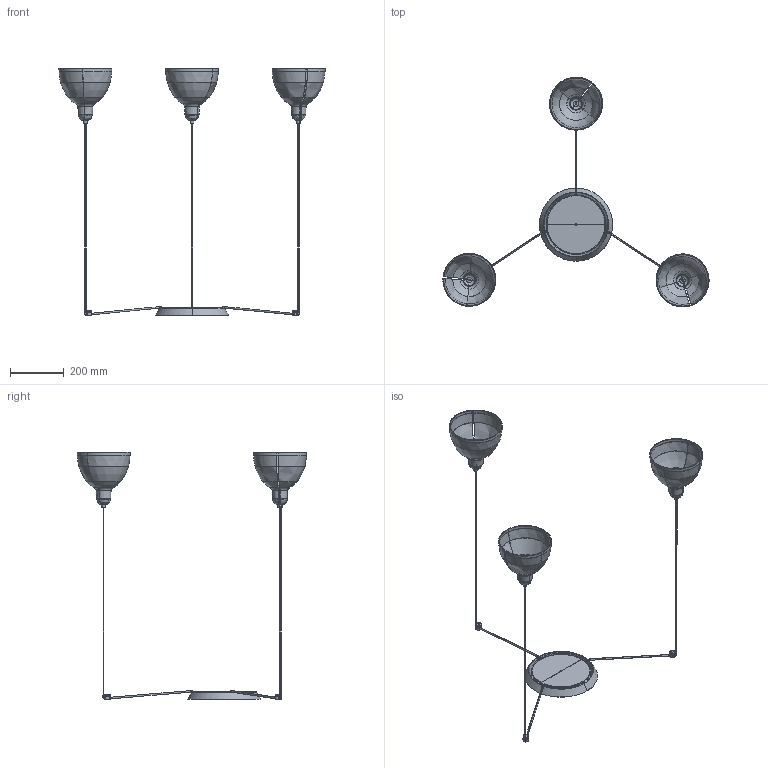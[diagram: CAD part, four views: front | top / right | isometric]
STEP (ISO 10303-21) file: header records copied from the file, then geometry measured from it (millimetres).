
FILE_DESCRIPTION(/* description */ (''),/* implementation_level */ '2;1');
FILE_NAME(/* name */ '64255-124-3L.step',/* time_stamp */ '2024-05-09T12:34:25+02:00',/* author */ ('RenataManzini'),/* organization */ (''),/* preprocessor_version */ 'ST-DEVELOPER v20',/* originating_system */ 'AutoCAD Mechanical',/* authorisation */ '');
FILE_SCHEMA (('AUTOMOTIVE_DESIGN { 1 0 10303 214 3 1 1 }'));
Length unit declared in the file: millimetre
Products named in the file (2): Product; VENICE_CAN3 - 68603-528694-_3D_
Assembly tree (1 placements, depth 2):
  Product
    VENICE_CAN3 - 68603-528694-_3D_
Bounding box: 993.57 x 857.19 x 923.11 mm (x, y, z)
Volume: 1031770.6 mm3; surface area: 1407927.3 mm2
Topology: 32 solids, 32 shells, 835 faces, 2008 edges, 1221 vertices
Faces by surface type: cylinder 222, plane 193, bspline 156, cone 138, torus 126
Entity records: 36859 total; most frequent: CARTESIAN_POINT 19329, ORIENTED_EDGE 3998, DIRECTION 3071, EDGE_CURVE 1999, AXIS2_PLACEMENT_3D 1246, VERTEX_POINT 1216, EDGE_LOOP 905, FACE_OUTER_BOUND 835
